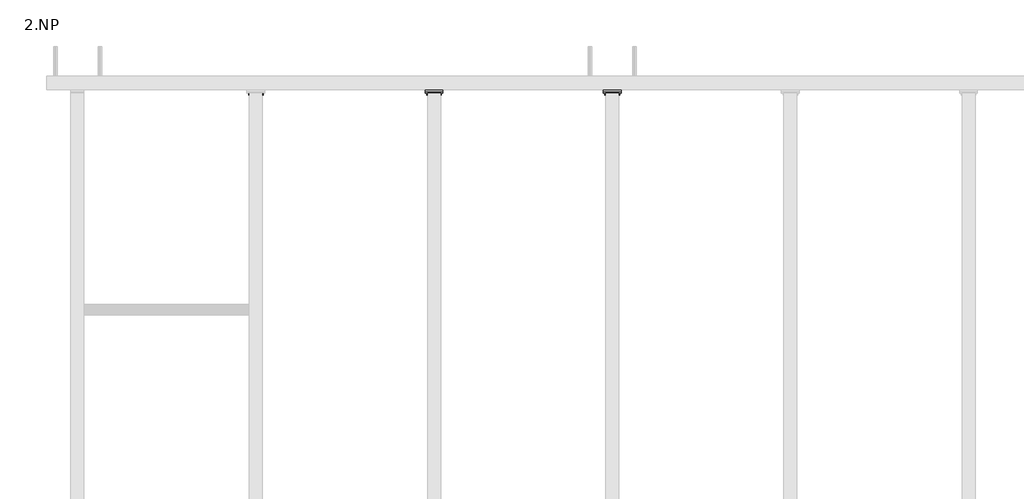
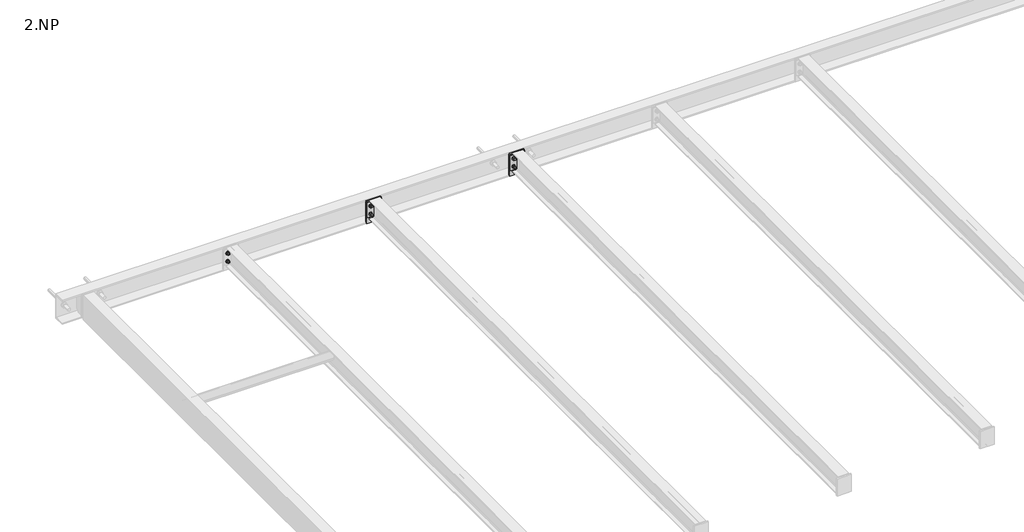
# One storey, part 9 of 18: 8 proxies.
"""IFC4 building model written with IfcOpenShell, lengths in millimetres."""

from ifc_helpers import new_model, si_unit, point, frame, frame_2d, origin, place, context, project, spatial, polyline, circle_curve, trimmed, segment, composite_curve, outline, extrude, element, save

model = new_model("IFC4")

# Units and contexts
model_context = context("Model", 3, world=origin())
ifc_project = project(units=[si_unit("LENGTHUNIT", "METRE", prefix="MILLI")], contexts=[model_context])

# Site, building, storey
site = spatial("IfcSite", under=ifc_project)
building = spatial("IfcBuilding", under=site)
storey = spatial("IfcBuildingStorey", under=building, Name="2.NP", Elevation=3000.0)

# Proxies
placement = place(None, origin())
element("IfcBuildingElementProxy", 1, Name="PLECH", ObjectType="PLECH", at=placement, inside=storey, context=model_context, shape_type="SweptSolid", body=[
    extrude(outline(polyline([(3000.0, 3775.0), (3100.0, 3775.0), (3100.0, 3767.0), (3000.0, 3767.0), (3000.0, 3775.0)])), frame((0.0, 0.0, 3175.0), z_axis=(0.0, 0.0, 1.0), x_axis=(1.0, 0.0, 0.0)), (0.0, 0.0, 1.0), 110.0),
])
element("IfcBuildingElementProxy", 2, Name="PLECH", ObjectType="PLECH", at=placement, inside=storey, context=model_context, shape_type="SweptSolid", body=[
    extrude(outline(polyline([(2000.0, 3775.0), (2100.0, 3775.0), (2100.0, 3767.0), (2000.0, 3767.0), (2000.0, 3775.0)])), frame((0.0, 0.0, 3175.0), z_axis=(0.0, 0.0, 1.0), x_axis=(1.0, 0.0, 0.0)), (0.0, 0.0, 1.0), 110.0),
])
element("IfcBuildingElementProxy", 3, Name="PLECH", ObjectType="PLECH", at=placement, inside=storey, context=model_context, shape_type="SweptSolid", body=[
    extrude(outline(polyline([(3000.0, 3785.0), (3100.0, 3785.0), (3100.0, 3775.0), (3000.0, 3775.0), (3000.0, 3785.0)])), frame((0.0, 0.0, 3128.0), z_axis=(0.0, 0.0, 1.0), x_axis=(1.0, 0.0, 0.0)), (0.0, 0.0, 1.0), 164.0),
])
element("IfcBuildingElementProxy", 4, Name="PLECH", ObjectType="PLECH", at=placement, inside=storey, context=model_context, shape_type="SweptSolid", body=[
    extrude(outline(polyline([(2000.0, 3785.0), (2100.0, 3785.0), (2100.0, 3775.0), (2000.0, 3775.0), (2000.0, 3785.0)])), frame((0.0, 0.0, 3128.0), z_axis=(0.0, 0.0, 1.0), x_axis=(1.0, 0.0, 0.0)), (0.0, 0.0, 1.0), 164.0),
])
element("IfcBuildingElementProxy", 5, Name="PLECH", ObjectType="PLECH", at=placement, inside=storey, context=model_context, shape_type="SweptSolid", body=[
    extrude(outline(composite_curve([segment(polyline([(3785.0, 3289.5), (3834.5, 3289.5)]), True, "CONTINUOUS"), segment(trimmed(circle_curve(frame_2d((3854.5, 3289.5)), 20.0), [point((3834.5, 3289.5))], [point((3854.5, 3269.5))], True, "CARTESIAN"), True, "CONTINUOUS"), segment(polyline([(3854.5, 3269.5), (3854.5, 3150.5)]), True, "CONTINUOUS"), segment(trimmed(circle_curve(frame_2d((3854.5, 3130.5)), 20.0), [point((3854.5, 3150.5))], [point((3834.5, 3130.5))], True, "CARTESIAN"), True, "CONTINUOUS"), segment(polyline([(3834.5, 3130.5), (3785.0, 3130.5), (3785.0, 3289.5)]), True, "CONTINUOUS")], self_intersect=False)), frame((2047.0, 0.0, 0.0), z_axis=(1.0, 0.0, 0.0), x_axis=(0.0, 1.0, 0.0)), (0.0, 0.0, 1.0), 6.0),
])
element("IfcBuildingElementProxy", 6, Name="Bolt assembly", ObjectType="Bolt assembly", at=placement, inside=storey, context=model_context, shape_type="SweptSolid", body=[
    extrude(outline(composite_curve([segment(trimmed(circle_curve(frame_2d((3260.0, 3020.0)), 6.5), [point((3260.0, 3026.5))], [point((3260.0, 3013.5))], False, "CARTESIAN"), True, "CONTINUOUS"), segment(trimmed(circle_curve(frame_2d((3260.0, 3020.0)), 6.5), [point((3260.0, 3013.5))], [point((3260.0, 3026.5))], False, "CARTESIAN"), True, "CONTINUOUS")], self_intersect=False)), frame((0.0, 3774.9, 0.0), z_axis=(0.0, 1.0, 0.0), x_axis=(0.0, 0.0, 1.0)), (0.0, 0.0, 1.0), 10.0),
    extrude(outline(polyline([(3260.0, 3030.9696551), (3269.5, 3025.4848276), (3269.5, 3014.5151724), (3260.0, 3009.0303449), (3250.5, 3014.5151724), (3250.5, 3025.4848276), (3260.0, 3030.9696551)])), frame((0.0, 3787.5, 0.0), z_axis=(0.0, 1.0, 0.0), x_axis=(0.0, 0.0, 1.0)), (0.0, 0.0, 1.0), 7.5),
    extrude(outline(composite_curve([segment(trimmed(circle_curve(frame_2d((3260.0, 3020.0)), 6.0), [point((3260.0, 3026.0))], [point((3260.0, 3014.0))], False, "CARTESIAN"), True, "CONTINUOUS"), segment(trimmed(circle_curve(frame_2d((3260.0, 3020.0)), 6.0), [point((3260.0, 3014.0))], [point((3260.0, 3026.0))], False, "CARTESIAN"), True, "CONTINUOUS")], self_intersect=False)), frame((0.0, 3747.5, 0.0), z_axis=(0.0, 1.0, 0.0), x_axis=(0.0, 0.0, 1.0)), (0.0, 0.0, 1.0), 40.0),
    extrude(outline(composite_curve([segment(trimmed(circle_curve(frame_2d((3260.0, 3020.0)), 12.0), [point((3260.0, 3032.0))], [point((3260.0, 3008.0))], False, "CARTESIAN"), True, "CONTINUOUS"), segment(trimmed(circle_curve(frame_2d((3260.0, 3020.0)), 12.0), [point((3260.0, 3008.0))], [point((3260.0, 3032.0))], False, "CARTESIAN"), True, "CONTINUOUS")], self_intersect=False)), frame((0.0, 3785.0, 0.0), z_axis=(0.0, 1.0, 0.0), x_axis=(0.0, 0.0, 1.0)), (0.0, 0.0, 1.0), 2.5),
    extrude(outline(composite_curve([segment(trimmed(circle_curve(frame_2d((3260.0, 3020.0)), 12.0), [point((3260.0, 3032.0))], [point((3260.0, 3008.0))], False, "CARTESIAN"), True, "CONTINUOUS"), segment(trimmed(circle_curve(frame_2d((3260.0, 3020.0)), 12.0), [point((3260.0, 3008.0))], [point((3260.0, 3032.0))], False, "CARTESIAN"), True, "CONTINUOUS")], self_intersect=False)), frame((0.0, 3764.5, 0.0), z_axis=(0.0, 1.0, 0.0), x_axis=(0.0, 0.0, 1.0)), (0.0, 0.0, 1.0), 2.5),
    extrude(outline(polyline([(3260.0, 3030.9696551), (3269.5, 3025.4848276), (3269.5, 3014.5151724), (3260.0, 3009.0303449), (3250.5, 3014.5151724), (3250.5, 3025.4848276), (3260.0, 3030.9696551)])), frame((0.0, 3754.5, 0.0), z_axis=(0.0, 1.0, 0.0), x_axis=(0.0, 0.0, 1.0)), (0.0, 0.0, 1.0), 10.0),
    extrude(outline(composite_curve([segment(trimmed(circle_curve(frame_2d((3260.0, 3020.0)), 6.5), [point((3260.0, 3026.5))], [point((3260.0, 3013.5))], False, "CARTESIAN"), True, "CONTINUOUS"), segment(trimmed(circle_curve(frame_2d((3260.0, 3020.0)), 6.5), [point((3260.0, 3013.5))], [point((3260.0, 3026.5))], False, "CARTESIAN"), True, "CONTINUOUS")], self_intersect=False)), frame((0.0, 3767.0, 0.0), z_axis=(0.0, 1.0, 0.0), x_axis=(0.0, 0.0, 1.0)), (0.0, 0.0, 1.0), 8.1),
    extrude(outline(composite_curve([segment(trimmed(circle_curve(frame_2d((3260.0, 3080.0)), 6.5), [point((3260.0, 3086.5))], [point((3260.0, 3073.5))], False, "CARTESIAN"), True, "CONTINUOUS"), segment(trimmed(circle_curve(frame_2d((3260.0, 3080.0)), 6.5), [point((3260.0, 3073.5))], [point((3260.0, 3086.5))], False, "CARTESIAN"), True, "CONTINUOUS")], self_intersect=False)), frame((0.0, 3774.9, 0.0), z_axis=(0.0, 1.0, 0.0), x_axis=(0.0, 0.0, 1.0)), (0.0, 0.0, 1.0), 10.0),
    extrude(outline(polyline([(3260.0, 3090.9696551), (3269.5, 3085.4848276), (3269.5, 3074.5151724), (3260.0, 3069.0303449), (3250.5, 3074.5151724), (3250.5, 3085.4848276), (3260.0, 3090.9696551)])), frame((0.0, 3787.5, 0.0), z_axis=(0.0, 1.0, 0.0), x_axis=(0.0, 0.0, 1.0)), (0.0, 0.0, 1.0), 7.5),
    extrude(outline(composite_curve([segment(trimmed(circle_curve(frame_2d((3260.0, 3080.0)), 6.0), [point((3260.0, 3086.0))], [point((3260.0, 3074.0))], False, "CARTESIAN"), True, "CONTINUOUS"), segment(trimmed(circle_curve(frame_2d((3260.0, 3080.0)), 6.0), [point((3260.0, 3074.0))], [point((3260.0, 3086.0))], False, "CARTESIAN"), True, "CONTINUOUS")], self_intersect=False)), frame((0.0, 3747.5, 0.0), z_axis=(0.0, 1.0, 0.0), x_axis=(0.0, 0.0, 1.0)), (0.0, 0.0, 1.0), 40.0),
    extrude(outline(composite_curve([segment(trimmed(circle_curve(frame_2d((3260.0, 3080.0)), 12.0), [point((3260.0, 3092.0))], [point((3260.0, 3068.0))], False, "CARTESIAN"), True, "CONTINUOUS"), segment(trimmed(circle_curve(frame_2d((3260.0, 3080.0)), 12.0), [point((3260.0, 3068.0))], [point((3260.0, 3092.0))], False, "CARTESIAN"), True, "CONTINUOUS")], self_intersect=False)), frame((0.0, 3785.0, 0.0), z_axis=(0.0, 1.0, 0.0), x_axis=(0.0, 0.0, 1.0)), (0.0, 0.0, 1.0), 2.5),
    extrude(outline(composite_curve([segment(trimmed(circle_curve(frame_2d((3260.0, 3080.0)), 12.0), [point((3260.0, 3092.0))], [point((3260.0, 3068.0))], False, "CARTESIAN"), True, "CONTINUOUS"), segment(trimmed(circle_curve(frame_2d((3260.0, 3080.0)), 12.0), [point((3260.0, 3068.0))], [point((3260.0, 3092.0))], False, "CARTESIAN"), True, "CONTINUOUS")], self_intersect=False)), frame((0.0, 3764.5, 0.0), z_axis=(0.0, 1.0, 0.0), x_axis=(0.0, 0.0, 1.0)), (0.0, 0.0, 1.0), 2.5),
    extrude(outline(polyline([(3260.0, 3090.9696551), (3269.5, 3085.4848276), (3269.5, 3074.5151724), (3260.0, 3069.0303449), (3250.5, 3074.5151724), (3250.5, 3085.4848276), (3260.0, 3090.9696551)])), frame((0.0, 3754.5, 0.0), z_axis=(0.0, 1.0, 0.0), x_axis=(0.0, 0.0, 1.0)), (0.0, 0.0, 1.0), 10.0),
    extrude(outline(composite_curve([segment(trimmed(circle_curve(frame_2d((3260.0, 3080.0)), 6.5), [point((3260.0, 3086.5))], [point((3260.0, 3073.5))], False, "CARTESIAN"), True, "CONTINUOUS"), segment(trimmed(circle_curve(frame_2d((3260.0, 3080.0)), 6.5), [point((3260.0, 3073.5))], [point((3260.0, 3086.5))], False, "CARTESIAN"), True, "CONTINUOUS")], self_intersect=False)), frame((0.0, 3767.0, 0.0), z_axis=(0.0, 1.0, 0.0), x_axis=(0.0, 0.0, 1.0)), (0.0, 0.0, 1.0), 8.1),
    extrude(outline(composite_curve([segment(trimmed(circle_curve(frame_2d((3200.0, 3020.0)), 6.5), [point((3200.0, 3026.5))], [point((3200.0, 3013.5))], False, "CARTESIAN"), True, "CONTINUOUS"), segment(trimmed(circle_curve(frame_2d((3200.0, 3020.0)), 6.5), [point((3200.0, 3013.5))], [point((3200.0, 3026.5))], False, "CARTESIAN"), True, "CONTINUOUS")], self_intersect=False)), frame((0.0, 3774.9, 0.0), z_axis=(0.0, 1.0, 0.0), x_axis=(0.0, 0.0, 1.0)), (0.0, 0.0, 1.0), 10.0),
    extrude(outline(polyline([(3200.0, 3030.9696551), (3209.5, 3025.4848276), (3209.5, 3014.5151724), (3200.0, 3009.0303449), (3190.5, 3014.5151724), (3190.5, 3025.4848276), (3200.0, 3030.9696551)])), frame((0.0, 3787.5, 0.0), z_axis=(0.0, 1.0, 0.0), x_axis=(0.0, 0.0, 1.0)), (0.0, 0.0, 1.0), 7.5),
    extrude(outline(composite_curve([segment(trimmed(circle_curve(frame_2d((3200.0, 3020.0)), 6.0), [point((3200.0, 3026.0))], [point((3200.0, 3014.0))], False, "CARTESIAN"), True, "CONTINUOUS"), segment(trimmed(circle_curve(frame_2d((3200.0, 3020.0)), 6.0), [point((3200.0, 3014.0))], [point((3200.0, 3026.0))], False, "CARTESIAN"), True, "CONTINUOUS")], self_intersect=False)), frame((0.0, 3747.5, 0.0), z_axis=(0.0, 1.0, 0.0), x_axis=(0.0, 0.0, 1.0)), (0.0, 0.0, 1.0), 40.0),
    extrude(outline(composite_curve([segment(trimmed(circle_curve(frame_2d((3200.0, 3020.0)), 12.0), [point((3200.0, 3032.0))], [point((3200.0, 3008.0))], False, "CARTESIAN"), True, "CONTINUOUS"), segment(trimmed(circle_curve(frame_2d((3200.0, 3020.0)), 12.0), [point((3200.0, 3008.0))], [point((3200.0, 3032.0))], False, "CARTESIAN"), True, "CONTINUOUS")], self_intersect=False)), frame((0.0, 3785.0, 0.0), z_axis=(0.0, 1.0, 0.0), x_axis=(0.0, 0.0, 1.0)), (0.0, 0.0, 1.0), 2.5),
    extrude(outline(composite_curve([segment(trimmed(circle_curve(frame_2d((3200.0, 3020.0)), 12.0), [point((3200.0, 3032.0))], [point((3200.0, 3008.0))], False, "CARTESIAN"), True, "CONTINUOUS"), segment(trimmed(circle_curve(frame_2d((3200.0, 3020.0)), 12.0), [point((3200.0, 3008.0))], [point((3200.0, 3032.0))], False, "CARTESIAN"), True, "CONTINUOUS")], self_intersect=False)), frame((0.0, 3764.5, 0.0), z_axis=(0.0, 1.0, 0.0), x_axis=(0.0, 0.0, 1.0)), (0.0, 0.0, 1.0), 2.5),
    extrude(outline(polyline([(3200.0, 3030.9696551), (3209.5, 3025.4848276), (3209.5, 3014.5151724), (3200.0, 3009.0303449), (3190.5, 3014.5151724), (3190.5, 3025.4848276), (3200.0, 3030.9696551)])), frame((0.0, 3754.5, 0.0), z_axis=(0.0, 1.0, 0.0), x_axis=(0.0, 0.0, 1.0)), (0.0, 0.0, 1.0), 10.0),
    extrude(outline(composite_curve([segment(trimmed(circle_curve(frame_2d((3200.0, 3020.0)), 6.5), [point((3200.0, 3026.5))], [point((3200.0, 3013.5))], False, "CARTESIAN"), True, "CONTINUOUS"), segment(trimmed(circle_curve(frame_2d((3200.0, 3020.0)), 6.5), [point((3200.0, 3013.5))], [point((3200.0, 3026.5))], False, "CARTESIAN"), True, "CONTINUOUS")], self_intersect=False)), frame((0.0, 3767.0, 0.0), z_axis=(0.0, 1.0, 0.0), x_axis=(0.0, 0.0, 1.0)), (0.0, 0.0, 1.0), 8.1),
    extrude(outline(composite_curve([segment(trimmed(circle_curve(frame_2d((3200.0, 3080.0)), 6.5), [point((3200.0, 3086.5))], [point((3200.0, 3073.5))], False, "CARTESIAN"), True, "CONTINUOUS"), segment(trimmed(circle_curve(frame_2d((3200.0, 3080.0)), 6.5), [point((3200.0, 3073.5))], [point((3200.0, 3086.5))], False, "CARTESIAN"), True, "CONTINUOUS")], self_intersect=False)), frame((0.0, 3774.9, 0.0), z_axis=(0.0, 1.0, 0.0), x_axis=(0.0, 0.0, 1.0)), (0.0, 0.0, 1.0), 10.0),
    extrude(outline(polyline([(3200.0, 3090.9696551), (3209.5, 3085.4848276), (3209.5, 3074.5151724), (3200.0, 3069.0303449), (3190.5, 3074.5151724), (3190.5, 3085.4848276), (3200.0, 3090.9696551)])), frame((0.0, 3787.5, 0.0), z_axis=(0.0, 1.0, 0.0), x_axis=(0.0, 0.0, 1.0)), (0.0, 0.0, 1.0), 7.5),
    extrude(outline(composite_curve([segment(trimmed(circle_curve(frame_2d((3200.0, 3080.0)), 6.0), [point((3200.0, 3086.0))], [point((3200.0, 3074.0))], False, "CARTESIAN"), True, "CONTINUOUS"), segment(trimmed(circle_curve(frame_2d((3200.0, 3080.0)), 6.0), [point((3200.0, 3074.0))], [point((3200.0, 3086.0))], False, "CARTESIAN"), True, "CONTINUOUS")], self_intersect=False)), frame((0.0, 3747.5, 0.0), z_axis=(0.0, 1.0, 0.0), x_axis=(0.0, 0.0, 1.0)), (0.0, 0.0, 1.0), 40.0),
    extrude(outline(composite_curve([segment(trimmed(circle_curve(frame_2d((3200.0, 3080.0)), 12.0), [point((3200.0, 3092.0))], [point((3200.0, 3068.0))], False, "CARTESIAN"), True, "CONTINUOUS"), segment(trimmed(circle_curve(frame_2d((3200.0, 3080.0)), 12.0), [point((3200.0, 3068.0))], [point((3200.0, 3092.0))], False, "CARTESIAN"), True, "CONTINUOUS")], self_intersect=False)), frame((0.0, 3785.0, 0.0), z_axis=(0.0, 1.0, 0.0), x_axis=(0.0, 0.0, 1.0)), (0.0, 0.0, 1.0), 2.5),
    extrude(outline(composite_curve([segment(trimmed(circle_curve(frame_2d((3200.0, 3080.0)), 12.0), [point((3200.0, 3092.0))], [point((3200.0, 3068.0))], False, "CARTESIAN"), True, "CONTINUOUS"), segment(trimmed(circle_curve(frame_2d((3200.0, 3080.0)), 12.0), [point((3200.0, 3068.0))], [point((3200.0, 3092.0))], False, "CARTESIAN"), True, "CONTINUOUS")], self_intersect=False)), frame((0.0, 3764.5, 0.0), z_axis=(0.0, 1.0, 0.0), x_axis=(0.0, 0.0, 1.0)), (0.0, 0.0, 1.0), 2.5),
    extrude(outline(polyline([(3200.0, 3090.9696551), (3209.5, 3085.4848276), (3209.5, 3074.5151724), (3200.0, 3069.0303449), (3190.5, 3074.5151724), (3190.5, 3085.4848276), (3200.0, 3090.9696551)])), frame((0.0, 3754.5, 0.0), z_axis=(0.0, 1.0, 0.0), x_axis=(0.0, 0.0, 1.0)), (0.0, 0.0, 1.0), 10.0),
    extrude(outline(composite_curve([segment(trimmed(circle_curve(frame_2d((3200.0, 3080.0)), 6.5), [point((3200.0, 3086.5))], [point((3200.0, 3073.5))], False, "CARTESIAN"), True, "CONTINUOUS"), segment(trimmed(circle_curve(frame_2d((3200.0, 3080.0)), 6.5), [point((3200.0, 3073.5))], [point((3200.0, 3086.5))], False, "CARTESIAN"), True, "CONTINUOUS")], self_intersect=False)), frame((0.0, 3767.0, 0.0), z_axis=(0.0, 1.0, 0.0), x_axis=(0.0, 0.0, 1.0)), (0.0, 0.0, 1.0), 8.1),
])
element("IfcBuildingElementProxy", 7, Name="Bolt assembly", ObjectType="Bolt assembly", at=placement, inside=storey, context=model_context, shape_type="SweptSolid", body=[
    extrude(outline(composite_curve([segment(trimmed(circle_curve(frame_2d((3260.0, 2020.0)), 6.5), [point((3260.0, 2026.5))], [point((3260.0, 2013.5))], False, "CARTESIAN"), True, "CONTINUOUS"), segment(trimmed(circle_curve(frame_2d((3260.0, 2020.0)), 6.5), [point((3260.0, 2013.5))], [point((3260.0, 2026.5))], False, "CARTESIAN"), True, "CONTINUOUS")], self_intersect=False)), frame((0.0, 3774.9, 0.0), z_axis=(0.0, 1.0, 0.0), x_axis=(0.0, 0.0, 1.0)), (0.0, 0.0, 1.0), 10.0),
    extrude(outline(polyline([(3260.0, 2030.9696551), (3269.5, 2025.4848276), (3269.5, 2014.5151724), (3260.0, 2009.0303449), (3250.5, 2014.5151724), (3250.5, 2025.4848276), (3260.0, 2030.9696551)])), frame((0.0, 3787.5, 0.0), z_axis=(0.0, 1.0, 0.0), x_axis=(0.0, 0.0, 1.0)), (0.0, 0.0, 1.0), 7.5),
    extrude(outline(composite_curve([segment(trimmed(circle_curve(frame_2d((3260.0, 2020.0)), 6.0), [point((3260.0, 2026.0))], [point((3260.0, 2014.0))], False, "CARTESIAN"), True, "CONTINUOUS"), segment(trimmed(circle_curve(frame_2d((3260.0, 2020.0)), 6.0), [point((3260.0, 2014.0))], [point((3260.0, 2026.0))], False, "CARTESIAN"), True, "CONTINUOUS")], self_intersect=False)), frame((0.0, 3747.5, 0.0), z_axis=(0.0, 1.0, 0.0), x_axis=(0.0, 0.0, 1.0)), (0.0, 0.0, 1.0), 40.0),
    extrude(outline(composite_curve([segment(trimmed(circle_curve(frame_2d((3260.0, 2020.0)), 12.0), [point((3260.0, 2032.0))], [point((3260.0, 2008.0))], False, "CARTESIAN"), True, "CONTINUOUS"), segment(trimmed(circle_curve(frame_2d((3260.0, 2020.0)), 12.0), [point((3260.0, 2008.0))], [point((3260.0, 2032.0))], False, "CARTESIAN"), True, "CONTINUOUS")], self_intersect=False)), frame((0.0, 3785.0, 0.0), z_axis=(0.0, 1.0, 0.0), x_axis=(0.0, 0.0, 1.0)), (0.0, 0.0, 1.0), 2.5),
    extrude(outline(composite_curve([segment(trimmed(circle_curve(frame_2d((3260.0, 2020.0)), 12.0), [point((3260.0, 2032.0))], [point((3260.0, 2008.0))], False, "CARTESIAN"), True, "CONTINUOUS"), segment(trimmed(circle_curve(frame_2d((3260.0, 2020.0)), 12.0), [point((3260.0, 2008.0))], [point((3260.0, 2032.0))], False, "CARTESIAN"), True, "CONTINUOUS")], self_intersect=False)), frame((0.0, 3764.5, 0.0), z_axis=(0.0, 1.0, 0.0), x_axis=(0.0, 0.0, 1.0)), (0.0, 0.0, 1.0), 2.5),
    extrude(outline(polyline([(3260.0, 2030.9696551), (3269.5, 2025.4848276), (3269.5, 2014.5151724), (3260.0, 2009.0303449), (3250.5, 2014.5151724), (3250.5, 2025.4848276), (3260.0, 2030.9696551)])), frame((0.0, 3754.5, 0.0), z_axis=(0.0, 1.0, 0.0), x_axis=(0.0, 0.0, 1.0)), (0.0, 0.0, 1.0), 10.0),
    extrude(outline(composite_curve([segment(trimmed(circle_curve(frame_2d((3260.0, 2020.0)), 6.5), [point((3260.0, 2026.5))], [point((3260.0, 2013.5))], False, "CARTESIAN"), True, "CONTINUOUS"), segment(trimmed(circle_curve(frame_2d((3260.0, 2020.0)), 6.5), [point((3260.0, 2013.5))], [point((3260.0, 2026.5))], False, "CARTESIAN"), True, "CONTINUOUS")], self_intersect=False)), frame((0.0, 3767.0, 0.0), z_axis=(0.0, 1.0, 0.0), x_axis=(0.0, 0.0, 1.0)), (0.0, 0.0, 1.0), 8.1),
    extrude(outline(composite_curve([segment(trimmed(circle_curve(frame_2d((3260.0, 2080.0)), 6.5), [point((3260.0, 2086.5))], [point((3260.0, 2073.5))], False, "CARTESIAN"), True, "CONTINUOUS"), segment(trimmed(circle_curve(frame_2d((3260.0, 2080.0)), 6.5), [point((3260.0, 2073.5))], [point((3260.0, 2086.5))], False, "CARTESIAN"), True, "CONTINUOUS")], self_intersect=False)), frame((0.0, 3774.9, 0.0), z_axis=(0.0, 1.0, 0.0), x_axis=(0.0, 0.0, 1.0)), (0.0, 0.0, 1.0), 10.0),
    extrude(outline(polyline([(3260.0, 2090.9696551), (3269.5, 2085.4848276), (3269.5, 2074.5151724), (3260.0, 2069.0303449), (3250.5, 2074.5151724), (3250.5, 2085.4848276), (3260.0, 2090.9696551)])), frame((0.0, 3787.5, 0.0), z_axis=(0.0, 1.0, 0.0), x_axis=(0.0, 0.0, 1.0)), (0.0, 0.0, 1.0), 7.5),
    extrude(outline(composite_curve([segment(trimmed(circle_curve(frame_2d((3260.0, 2080.0)), 6.0), [point((3260.0, 2086.0))], [point((3260.0, 2074.0))], False, "CARTESIAN"), True, "CONTINUOUS"), segment(trimmed(circle_curve(frame_2d((3260.0, 2080.0)), 6.0), [point((3260.0, 2074.0))], [point((3260.0, 2086.0))], False, "CARTESIAN"), True, "CONTINUOUS")], self_intersect=False)), frame((0.0, 3747.5, 0.0), z_axis=(0.0, 1.0, 0.0), x_axis=(0.0, 0.0, 1.0)), (0.0, 0.0, 1.0), 40.0),
    extrude(outline(composite_curve([segment(trimmed(circle_curve(frame_2d((3260.0, 2080.0)), 12.0), [point((3260.0, 2092.0))], [point((3260.0, 2068.0))], False, "CARTESIAN"), True, "CONTINUOUS"), segment(trimmed(circle_curve(frame_2d((3260.0, 2080.0)), 12.0), [point((3260.0, 2068.0))], [point((3260.0, 2092.0))], False, "CARTESIAN"), True, "CONTINUOUS")], self_intersect=False)), frame((0.0, 3785.0, 0.0), z_axis=(0.0, 1.0, 0.0), x_axis=(0.0, 0.0, 1.0)), (0.0, 0.0, 1.0), 2.5),
    extrude(outline(composite_curve([segment(trimmed(circle_curve(frame_2d((3260.0, 2080.0)), 12.0), [point((3260.0, 2092.0))], [point((3260.0, 2068.0))], False, "CARTESIAN"), True, "CONTINUOUS"), segment(trimmed(circle_curve(frame_2d((3260.0, 2080.0)), 12.0), [point((3260.0, 2068.0))], [point((3260.0, 2092.0))], False, "CARTESIAN"), True, "CONTINUOUS")], self_intersect=False)), frame((0.0, 3764.5, 0.0), z_axis=(0.0, 1.0, 0.0), x_axis=(0.0, 0.0, 1.0)), (0.0, 0.0, 1.0), 2.5),
    extrude(outline(polyline([(3260.0, 2090.9696551), (3269.5, 2085.4848276), (3269.5, 2074.5151724), (3260.0, 2069.0303449), (3250.5, 2074.5151724), (3250.5, 2085.4848276), (3260.0, 2090.9696551)])), frame((0.0, 3754.5, 0.0), z_axis=(0.0, 1.0, 0.0), x_axis=(0.0, 0.0, 1.0)), (0.0, 0.0, 1.0), 10.0),
    extrude(outline(composite_curve([segment(trimmed(circle_curve(frame_2d((3260.0, 2080.0)), 6.5), [point((3260.0, 2086.5))], [point((3260.0, 2073.5))], False, "CARTESIAN"), True, "CONTINUOUS"), segment(trimmed(circle_curve(frame_2d((3260.0, 2080.0)), 6.5), [point((3260.0, 2073.5))], [point((3260.0, 2086.5))], False, "CARTESIAN"), True, "CONTINUOUS")], self_intersect=False)), frame((0.0, 3767.0, 0.0), z_axis=(0.0, 1.0, 0.0), x_axis=(0.0, 0.0, 1.0)), (0.0, 0.0, 1.0), 8.1),
    extrude(outline(composite_curve([segment(trimmed(circle_curve(frame_2d((3200.0, 2020.0)), 6.5), [point((3200.0, 2026.5))], [point((3200.0, 2013.5))], False, "CARTESIAN"), True, "CONTINUOUS"), segment(trimmed(circle_curve(frame_2d((3200.0, 2020.0)), 6.5), [point((3200.0, 2013.5))], [point((3200.0, 2026.5))], False, "CARTESIAN"), True, "CONTINUOUS")], self_intersect=False)), frame((0.0, 3774.9, 0.0), z_axis=(0.0, 1.0, 0.0), x_axis=(0.0, 0.0, 1.0)), (0.0, 0.0, 1.0), 10.0),
    extrude(outline(polyline([(3200.0, 2030.9696551), (3209.5, 2025.4848276), (3209.5, 2014.5151724), (3200.0, 2009.0303449), (3190.5, 2014.5151724), (3190.5, 2025.4848276), (3200.0, 2030.9696551)])), frame((0.0, 3787.5, 0.0), z_axis=(0.0, 1.0, 0.0), x_axis=(0.0, 0.0, 1.0)), (0.0, 0.0, 1.0), 7.5),
    extrude(outline(composite_curve([segment(trimmed(circle_curve(frame_2d((3200.0, 2020.0)), 6.0), [point((3200.0, 2026.0))], [point((3200.0, 2014.0))], False, "CARTESIAN"), True, "CONTINUOUS"), segment(trimmed(circle_curve(frame_2d((3200.0, 2020.0)), 6.0), [point((3200.0, 2014.0))], [point((3200.0, 2026.0))], False, "CARTESIAN"), True, "CONTINUOUS")], self_intersect=False)), frame((0.0, 3747.5, 0.0), z_axis=(0.0, 1.0, 0.0), x_axis=(0.0, 0.0, 1.0)), (0.0, 0.0, 1.0), 40.0),
    extrude(outline(composite_curve([segment(trimmed(circle_curve(frame_2d((3200.0, 2020.0)), 12.0), [point((3200.0, 2032.0))], [point((3200.0, 2008.0))], False, "CARTESIAN"), True, "CONTINUOUS"), segment(trimmed(circle_curve(frame_2d((3200.0, 2020.0)), 12.0), [point((3200.0, 2008.0))], [point((3200.0, 2032.0))], False, "CARTESIAN"), True, "CONTINUOUS")], self_intersect=False)), frame((0.0, 3785.0, 0.0), z_axis=(0.0, 1.0, 0.0), x_axis=(0.0, 0.0, 1.0)), (0.0, 0.0, 1.0), 2.5),
    extrude(outline(composite_curve([segment(trimmed(circle_curve(frame_2d((3200.0, 2020.0)), 12.0), [point((3200.0, 2032.0))], [point((3200.0, 2008.0))], False, "CARTESIAN"), True, "CONTINUOUS"), segment(trimmed(circle_curve(frame_2d((3200.0, 2020.0)), 12.0), [point((3200.0, 2008.0))], [point((3200.0, 2032.0))], False, "CARTESIAN"), True, "CONTINUOUS")], self_intersect=False)), frame((0.0, 3764.5, 0.0), z_axis=(0.0, 1.0, 0.0), x_axis=(0.0, 0.0, 1.0)), (0.0, 0.0, 1.0), 2.5),
    extrude(outline(polyline([(3200.0, 2030.9696551), (3209.5, 2025.4848276), (3209.5, 2014.5151724), (3200.0, 2009.0303449), (3190.5, 2014.5151724), (3190.5, 2025.4848276), (3200.0, 2030.9696551)])), frame((0.0, 3754.5, 0.0), z_axis=(0.0, 1.0, 0.0), x_axis=(0.0, 0.0, 1.0)), (0.0, 0.0, 1.0), 10.0),
    extrude(outline(composite_curve([segment(trimmed(circle_curve(frame_2d((3200.0, 2020.0)), 6.5), [point((3200.0, 2026.5))], [point((3200.0, 2013.5))], False, "CARTESIAN"), True, "CONTINUOUS"), segment(trimmed(circle_curve(frame_2d((3200.0, 2020.0)), 6.5), [point((3200.0, 2013.5))], [point((3200.0, 2026.5))], False, "CARTESIAN"), True, "CONTINUOUS")], self_intersect=False)), frame((0.0, 3767.0, 0.0), z_axis=(0.0, 1.0, 0.0), x_axis=(0.0, 0.0, 1.0)), (0.0, 0.0, 1.0), 8.1),
    extrude(outline(composite_curve([segment(trimmed(circle_curve(frame_2d((3200.0, 2080.0)), 6.5), [point((3200.0, 2086.5))], [point((3200.0, 2073.5))], False, "CARTESIAN"), True, "CONTINUOUS"), segment(trimmed(circle_curve(frame_2d((3200.0, 2080.0)), 6.5), [point((3200.0, 2073.5))], [point((3200.0, 2086.5))], False, "CARTESIAN"), True, "CONTINUOUS")], self_intersect=False)), frame((0.0, 3774.9, 0.0), z_axis=(0.0, 1.0, 0.0), x_axis=(0.0, 0.0, 1.0)), (0.0, 0.0, 1.0), 10.0),
    extrude(outline(polyline([(3200.0, 2090.9696551), (3209.5, 2085.4848276), (3209.5, 2074.5151724), (3200.0, 2069.0303449), (3190.5, 2074.5151724), (3190.5, 2085.4848276), (3200.0, 2090.9696551)])), frame((0.0, 3787.5, 0.0), z_axis=(0.0, 1.0, 0.0), x_axis=(0.0, 0.0, 1.0)), (0.0, 0.0, 1.0), 7.5),
    extrude(outline(composite_curve([segment(trimmed(circle_curve(frame_2d((3200.0, 2080.0)), 6.0), [point((3200.0, 2086.0))], [point((3200.0, 2074.0))], False, "CARTESIAN"), True, "CONTINUOUS"), segment(trimmed(circle_curve(frame_2d((3200.0, 2080.0)), 6.0), [point((3200.0, 2074.0))], [point((3200.0, 2086.0))], False, "CARTESIAN"), True, "CONTINUOUS")], self_intersect=False)), frame((0.0, 3747.5, 0.0), z_axis=(0.0, 1.0, 0.0), x_axis=(0.0, 0.0, 1.0)), (0.0, 0.0, 1.0), 40.0),
    extrude(outline(composite_curve([segment(trimmed(circle_curve(frame_2d((3200.0, 2080.0)), 12.0), [point((3200.0, 2092.0))], [point((3200.0, 2068.0))], False, "CARTESIAN"), True, "CONTINUOUS"), segment(trimmed(circle_curve(frame_2d((3200.0, 2080.0)), 12.0), [point((3200.0, 2068.0))], [point((3200.0, 2092.0))], False, "CARTESIAN"), True, "CONTINUOUS")], self_intersect=False)), frame((0.0, 3785.0, 0.0), z_axis=(0.0, 1.0, 0.0), x_axis=(0.0, 0.0, 1.0)), (0.0, 0.0, 1.0), 2.5),
    extrude(outline(composite_curve([segment(trimmed(circle_curve(frame_2d((3200.0, 2080.0)), 12.0), [point((3200.0, 2092.0))], [point((3200.0, 2068.0))], False, "CARTESIAN"), True, "CONTINUOUS"), segment(trimmed(circle_curve(frame_2d((3200.0, 2080.0)), 12.0), [point((3200.0, 2068.0))], [point((3200.0, 2092.0))], False, "CARTESIAN"), True, "CONTINUOUS")], self_intersect=False)), frame((0.0, 3764.5, 0.0), z_axis=(0.0, 1.0, 0.0), x_axis=(0.0, 0.0, 1.0)), (0.0, 0.0, 1.0), 2.5),
    extrude(outline(polyline([(3200.0, 2090.9696551), (3209.5, 2085.4848276), (3209.5, 2074.5151724), (3200.0, 2069.0303449), (3190.5, 2074.5151724), (3190.5, 2085.4848276), (3200.0, 2090.9696551)])), frame((0.0, 3754.5, 0.0), z_axis=(0.0, 1.0, 0.0), x_axis=(0.0, 0.0, 1.0)), (0.0, 0.0, 1.0), 10.0),
    extrude(outline(composite_curve([segment(trimmed(circle_curve(frame_2d((3200.0, 2080.0)), 6.5), [point((3200.0, 2086.5))], [point((3200.0, 2073.5))], False, "CARTESIAN"), True, "CONTINUOUS"), segment(trimmed(circle_curve(frame_2d((3200.0, 2080.0)), 6.5), [point((3200.0, 2073.5))], [point((3200.0, 2086.5))], False, "CARTESIAN"), True, "CONTINUOUS")], self_intersect=False)), frame((0.0, 3767.0, 0.0), z_axis=(0.0, 1.0, 0.0), x_axis=(0.0, 0.0, 1.0)), (0.0, 0.0, 1.0), 8.1),
])
element("IfcBuildingElementProxy", 8, Name="Bolt assembly", ObjectType="Bolt assembly", at=placement, inside=storey, context=model_context, shape_type="SweptSolid", body=[
    extrude(outline(composite_curve([segment(trimmed(circle_curve(frame_2d((3260.0, 1020.0)), 6.5), [point((3260.0, 1026.5))], [point((3260.0, 1013.5))], False, "CARTESIAN"), True, "CONTINUOUS"), segment(trimmed(circle_curve(frame_2d((3260.0, 1020.0)), 6.5), [point((3260.0, 1013.5))], [point((3260.0, 1026.5))], False, "CARTESIAN"), True, "CONTINUOUS")], self_intersect=False)), frame((0.0, 3774.9, 0.0), z_axis=(0.0, 1.0, 0.0), x_axis=(0.0, 0.0, 1.0)), (0.0, 0.0, 1.0), 10.0),
    extrude(outline(polyline([(3260.0, 1030.9696551), (3269.5, 1025.4848276), (3269.5, 1014.5151724), (3260.0, 1009.0303449), (3250.5, 1014.5151724), (3250.5, 1025.4848276), (3260.0, 1030.9696551)])), frame((0.0, 3787.5, 0.0), z_axis=(0.0, 1.0, 0.0), x_axis=(0.0, 0.0, 1.0)), (0.0, 0.0, 1.0), 7.5),
    extrude(outline(composite_curve([segment(trimmed(circle_curve(frame_2d((3260.0, 1020.0)), 6.0), [point((3260.0, 1026.0))], [point((3260.0, 1014.0))], False, "CARTESIAN"), True, "CONTINUOUS"), segment(trimmed(circle_curve(frame_2d((3260.0, 1020.0)), 6.0), [point((3260.0, 1014.0))], [point((3260.0, 1026.0))], False, "CARTESIAN"), True, "CONTINUOUS")], self_intersect=False)), frame((0.0, 3747.5, 0.0), z_axis=(0.0, 1.0, 0.0), x_axis=(0.0, 0.0, 1.0)), (0.0, 0.0, 1.0), 40.0),
    extrude(outline(composite_curve([segment(trimmed(circle_curve(frame_2d((3260.0, 1020.0)), 12.0), [point((3260.0, 1032.0))], [point((3260.0, 1008.0))], False, "CARTESIAN"), True, "CONTINUOUS"), segment(trimmed(circle_curve(frame_2d((3260.0, 1020.0)), 12.0), [point((3260.0, 1008.0))], [point((3260.0, 1032.0))], False, "CARTESIAN"), True, "CONTINUOUS")], self_intersect=False)), frame((0.0, 3785.0, 0.0), z_axis=(0.0, 1.0, 0.0), x_axis=(0.0, 0.0, 1.0)), (0.0, 0.0, 1.0), 2.5),
    extrude(outline(composite_curve([segment(trimmed(circle_curve(frame_2d((3260.0, 1020.0)), 12.0), [point((3260.0, 1032.0))], [point((3260.0, 1008.0))], False, "CARTESIAN"), True, "CONTINUOUS"), segment(trimmed(circle_curve(frame_2d((3260.0, 1020.0)), 12.0), [point((3260.0, 1008.0))], [point((3260.0, 1032.0))], False, "CARTESIAN"), True, "CONTINUOUS")], self_intersect=False)), frame((0.0, 3764.5, 0.0), z_axis=(0.0, 1.0, 0.0), x_axis=(0.0, 0.0, 1.0)), (0.0, 0.0, 1.0), 2.5),
    extrude(outline(polyline([(3260.0, 1030.9696551), (3269.5, 1025.4848276), (3269.5, 1014.5151724), (3260.0, 1009.0303449), (3250.5, 1014.5151724), (3250.5, 1025.4848276), (3260.0, 1030.9696551)])), frame((0.0, 3754.5, 0.0), z_axis=(0.0, 1.0, 0.0), x_axis=(0.0, 0.0, 1.0)), (0.0, 0.0, 1.0), 10.0),
    extrude(outline(composite_curve([segment(trimmed(circle_curve(frame_2d((3260.0, 1020.0)), 6.5), [point((3260.0, 1026.5))], [point((3260.0, 1013.5))], False, "CARTESIAN"), True, "CONTINUOUS"), segment(trimmed(circle_curve(frame_2d((3260.0, 1020.0)), 6.5), [point((3260.0, 1013.5))], [point((3260.0, 1026.5))], False, "CARTESIAN"), True, "CONTINUOUS")], self_intersect=False)), frame((0.0, 3767.0, 0.0), z_axis=(0.0, 1.0, 0.0), x_axis=(0.0, 0.0, 1.0)), (0.0, 0.0, 1.0), 8.1),
    extrude(outline(composite_curve([segment(trimmed(circle_curve(frame_2d((3260.0, 1080.0)), 6.5), [point((3260.0, 1086.5))], [point((3260.0, 1073.5))], False, "CARTESIAN"), True, "CONTINUOUS"), segment(trimmed(circle_curve(frame_2d((3260.0, 1080.0)), 6.5), [point((3260.0, 1073.5))], [point((3260.0, 1086.5))], False, "CARTESIAN"), True, "CONTINUOUS")], self_intersect=False)), frame((0.0, 3774.9, 0.0), z_axis=(0.0, 1.0, 0.0), x_axis=(0.0, 0.0, 1.0)), (0.0, 0.0, 1.0), 10.0),
    extrude(outline(polyline([(3260.0, 1090.9696551), (3269.5, 1085.4848276), (3269.5, 1074.5151724), (3260.0, 1069.0303449), (3250.5, 1074.5151724), (3250.5, 1085.4848276), (3260.0, 1090.9696551)])), frame((0.0, 3787.5, 0.0), z_axis=(0.0, 1.0, 0.0), x_axis=(0.0, 0.0, 1.0)), (0.0, 0.0, 1.0), 7.5),
    extrude(outline(composite_curve([segment(trimmed(circle_curve(frame_2d((3260.0, 1080.0)), 6.0), [point((3260.0, 1086.0))], [point((3260.0, 1074.0))], False, "CARTESIAN"), True, "CONTINUOUS"), segment(trimmed(circle_curve(frame_2d((3260.0, 1080.0)), 6.0), [point((3260.0, 1074.0))], [point((3260.0, 1086.0))], False, "CARTESIAN"), True, "CONTINUOUS")], self_intersect=False)), frame((0.0, 3747.5, 0.0), z_axis=(0.0, 1.0, 0.0), x_axis=(0.0, 0.0, 1.0)), (0.0, 0.0, 1.0), 40.0),
    extrude(outline(composite_curve([segment(trimmed(circle_curve(frame_2d((3260.0, 1080.0)), 12.0), [point((3260.0, 1092.0))], [point((3260.0, 1068.0))], False, "CARTESIAN"), True, "CONTINUOUS"), segment(trimmed(circle_curve(frame_2d((3260.0, 1080.0)), 12.0), [point((3260.0, 1068.0))], [point((3260.0, 1092.0))], False, "CARTESIAN"), True, "CONTINUOUS")], self_intersect=False)), frame((0.0, 3785.0, 0.0), z_axis=(0.0, 1.0, 0.0), x_axis=(0.0, 0.0, 1.0)), (0.0, 0.0, 1.0), 2.5),
    extrude(outline(composite_curve([segment(trimmed(circle_curve(frame_2d((3260.0, 1080.0)), 12.0), [point((3260.0, 1092.0))], [point((3260.0, 1068.0))], False, "CARTESIAN"), True, "CONTINUOUS"), segment(trimmed(circle_curve(frame_2d((3260.0, 1080.0)), 12.0), [point((3260.0, 1068.0))], [point((3260.0, 1092.0))], False, "CARTESIAN"), True, "CONTINUOUS")], self_intersect=False)), frame((0.0, 3764.5, 0.0), z_axis=(0.0, 1.0, 0.0), x_axis=(0.0, 0.0, 1.0)), (0.0, 0.0, 1.0), 2.5),
    extrude(outline(polyline([(3260.0, 1090.9696551), (3269.5, 1085.4848276), (3269.5, 1074.5151724), (3260.0, 1069.0303449), (3250.5, 1074.5151724), (3250.5, 1085.4848276), (3260.0, 1090.9696551)])), frame((0.0, 3754.5, 0.0), z_axis=(0.0, 1.0, 0.0), x_axis=(0.0, 0.0, 1.0)), (0.0, 0.0, 1.0), 10.0),
    extrude(outline(composite_curve([segment(trimmed(circle_curve(frame_2d((3260.0, 1080.0)), 6.5), [point((3260.0, 1086.5))], [point((3260.0, 1073.5))], False, "CARTESIAN"), True, "CONTINUOUS"), segment(trimmed(circle_curve(frame_2d((3260.0, 1080.0)), 6.5), [point((3260.0, 1073.5))], [point((3260.0, 1086.5))], False, "CARTESIAN"), True, "CONTINUOUS")], self_intersect=False)), frame((0.0, 3767.0, 0.0), z_axis=(0.0, 1.0, 0.0), x_axis=(0.0, 0.0, 1.0)), (0.0, 0.0, 1.0), 8.1),
    extrude(outline(composite_curve([segment(trimmed(circle_curve(frame_2d((3200.0, 1020.0)), 6.5), [point((3200.0, 1026.5))], [point((3200.0, 1013.5))], False, "CARTESIAN"), True, "CONTINUOUS"), segment(trimmed(circle_curve(frame_2d((3200.0, 1020.0)), 6.5), [point((3200.0, 1013.5))], [point((3200.0, 1026.5))], False, "CARTESIAN"), True, "CONTINUOUS")], self_intersect=False)), frame((0.0, 3774.9, 0.0), z_axis=(0.0, 1.0, 0.0), x_axis=(0.0, 0.0, 1.0)), (0.0, 0.0, 1.0), 10.0),
    extrude(outline(polyline([(3200.0, 1030.9696551), (3209.5, 1025.4848276), (3209.5, 1014.5151724), (3200.0, 1009.0303449), (3190.5, 1014.5151724), (3190.5, 1025.4848276), (3200.0, 1030.9696551)])), frame((0.0, 3787.5, 0.0), z_axis=(0.0, 1.0, 0.0), x_axis=(0.0, 0.0, 1.0)), (0.0, 0.0, 1.0), 7.5),
    extrude(outline(composite_curve([segment(trimmed(circle_curve(frame_2d((3200.0, 1020.0)), 6.0), [point((3200.0, 1026.0))], [point((3200.0, 1014.0))], False, "CARTESIAN"), True, "CONTINUOUS"), segment(trimmed(circle_curve(frame_2d((3200.0, 1020.0)), 6.0), [point((3200.0, 1014.0))], [point((3200.0, 1026.0))], False, "CARTESIAN"), True, "CONTINUOUS")], self_intersect=False)), frame((0.0, 3747.5, 0.0), z_axis=(0.0, 1.0, 0.0), x_axis=(0.0, 0.0, 1.0)), (0.0, 0.0, 1.0), 40.0),
    extrude(outline(composite_curve([segment(trimmed(circle_curve(frame_2d((3200.0, 1020.0)), 12.0), [point((3200.0, 1032.0))], [point((3200.0, 1008.0))], False, "CARTESIAN"), True, "CONTINUOUS"), segment(trimmed(circle_curve(frame_2d((3200.0, 1020.0)), 12.0), [point((3200.0, 1008.0))], [point((3200.0, 1032.0))], False, "CARTESIAN"), True, "CONTINUOUS")], self_intersect=False)), frame((0.0, 3785.0, 0.0), z_axis=(0.0, 1.0, 0.0), x_axis=(0.0, 0.0, 1.0)), (0.0, 0.0, 1.0), 2.5),
    extrude(outline(composite_curve([segment(trimmed(circle_curve(frame_2d((3200.0, 1020.0)), 12.0), [point((3200.0, 1032.0))], [point((3200.0, 1008.0))], False, "CARTESIAN"), True, "CONTINUOUS"), segment(trimmed(circle_curve(frame_2d((3200.0, 1020.0)), 12.0), [point((3200.0, 1008.0))], [point((3200.0, 1032.0))], False, "CARTESIAN"), True, "CONTINUOUS")], self_intersect=False)), frame((0.0, 3764.5, 0.0), z_axis=(0.0, 1.0, 0.0), x_axis=(0.0, 0.0, 1.0)), (0.0, 0.0, 1.0), 2.5),
    extrude(outline(polyline([(3200.0, 1030.9696551), (3209.5, 1025.4848276), (3209.5, 1014.5151724), (3200.0, 1009.0303449), (3190.5, 1014.5151724), (3190.5, 1025.4848276), (3200.0, 1030.9696551)])), frame((0.0, 3754.5, 0.0), z_axis=(0.0, 1.0, 0.0), x_axis=(0.0, 0.0, 1.0)), (0.0, 0.0, 1.0), 10.0),
    extrude(outline(composite_curve([segment(trimmed(circle_curve(frame_2d((3200.0, 1020.0)), 6.5), [point((3200.0, 1026.5))], [point((3200.0, 1013.5))], False, "CARTESIAN"), True, "CONTINUOUS"), segment(trimmed(circle_curve(frame_2d((3200.0, 1020.0)), 6.5), [point((3200.0, 1013.5))], [point((3200.0, 1026.5))], False, "CARTESIAN"), True, "CONTINUOUS")], self_intersect=False)), frame((0.0, 3767.0, 0.0), z_axis=(0.0, 1.0, 0.0), x_axis=(0.0, 0.0, 1.0)), (0.0, 0.0, 1.0), 8.1),
    extrude(outline(composite_curve([segment(trimmed(circle_curve(frame_2d((3200.0, 1080.0)), 6.5), [point((3200.0, 1086.5))], [point((3200.0, 1073.5))], False, "CARTESIAN"), True, "CONTINUOUS"), segment(trimmed(circle_curve(frame_2d((3200.0, 1080.0)), 6.5), [point((3200.0, 1073.5))], [point((3200.0, 1086.5))], False, "CARTESIAN"), True, "CONTINUOUS")], self_intersect=False)), frame((0.0, 3774.9, 0.0), z_axis=(0.0, 1.0, 0.0), x_axis=(0.0, 0.0, 1.0)), (0.0, 0.0, 1.0), 10.0),
    extrude(outline(polyline([(3200.0, 1090.9696551), (3209.5, 1085.4848276), (3209.5, 1074.5151724), (3200.0, 1069.0303449), (3190.5, 1074.5151724), (3190.5, 1085.4848276), (3200.0, 1090.9696551)])), frame((0.0, 3787.5, 0.0), z_axis=(0.0, 1.0, 0.0), x_axis=(0.0, 0.0, 1.0)), (0.0, 0.0, 1.0), 7.5),
    extrude(outline(composite_curve([segment(trimmed(circle_curve(frame_2d((3200.0, 1080.0)), 6.0), [point((3200.0, 1086.0))], [point((3200.0, 1074.0))], False, "CARTESIAN"), True, "CONTINUOUS"), segment(trimmed(circle_curve(frame_2d((3200.0, 1080.0)), 6.0), [point((3200.0, 1074.0))], [point((3200.0, 1086.0))], False, "CARTESIAN"), True, "CONTINUOUS")], self_intersect=False)), frame((0.0, 3747.5, 0.0), z_axis=(0.0, 1.0, 0.0), x_axis=(0.0, 0.0, 1.0)), (0.0, 0.0, 1.0), 40.0),
    extrude(outline(composite_curve([segment(trimmed(circle_curve(frame_2d((3200.0, 1080.0)), 12.0), [point((3200.0, 1092.0))], [point((3200.0, 1068.0))], False, "CARTESIAN"), True, "CONTINUOUS"), segment(trimmed(circle_curve(frame_2d((3200.0, 1080.0)), 12.0), [point((3200.0, 1068.0))], [point((3200.0, 1092.0))], False, "CARTESIAN"), True, "CONTINUOUS")], self_intersect=False)), frame((0.0, 3785.0, 0.0), z_axis=(0.0, 1.0, 0.0), x_axis=(0.0, 0.0, 1.0)), (0.0, 0.0, 1.0), 2.5),
    extrude(outline(composite_curve([segment(trimmed(circle_curve(frame_2d((3200.0, 1080.0)), 12.0), [point((3200.0, 1092.0))], [point((3200.0, 1068.0))], False, "CARTESIAN"), True, "CONTINUOUS"), segment(trimmed(circle_curve(frame_2d((3200.0, 1080.0)), 12.0), [point((3200.0, 1068.0))], [point((3200.0, 1092.0))], False, "CARTESIAN"), True, "CONTINUOUS")], self_intersect=False)), frame((0.0, 3764.5, 0.0), z_axis=(0.0, 1.0, 0.0), x_axis=(0.0, 0.0, 1.0)), (0.0, 0.0, 1.0), 2.5),
    extrude(outline(polyline([(3200.0, 1090.9696551), (3209.5, 1085.4848276), (3209.5, 1074.5151724), (3200.0, 1069.0303449), (3190.5, 1074.5151724), (3190.5, 1085.4848276), (3200.0, 1090.9696551)])), frame((0.0, 3754.5, 0.0), z_axis=(0.0, 1.0, 0.0), x_axis=(0.0, 0.0, 1.0)), (0.0, 0.0, 1.0), 10.0),
    extrude(outline(composite_curve([segment(trimmed(circle_curve(frame_2d((3200.0, 1080.0)), 6.5), [point((3200.0, 1086.5))], [point((3200.0, 1073.5))], False, "CARTESIAN"), True, "CONTINUOUS"), segment(trimmed(circle_curve(frame_2d((3200.0, 1080.0)), 6.5), [point((3200.0, 1073.5))], [point((3200.0, 1086.5))], False, "CARTESIAN"), True, "CONTINUOUS")], self_intersect=False)), frame((0.0, 3767.0, 0.0), z_axis=(0.0, 1.0, 0.0), x_axis=(0.0, 0.0, 1.0)), (0.0, 0.0, 1.0), 8.1),
])

save(model, "model.ifc")
